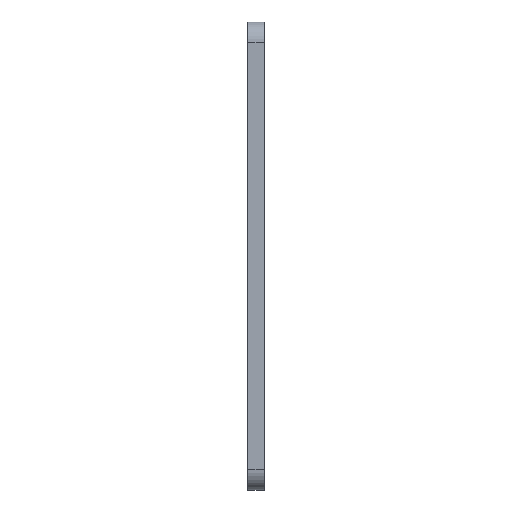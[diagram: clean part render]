
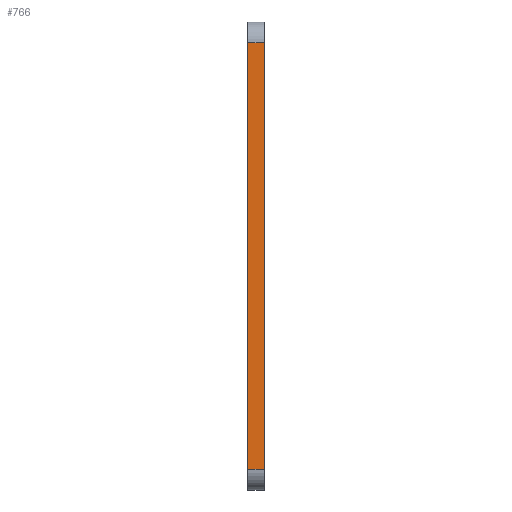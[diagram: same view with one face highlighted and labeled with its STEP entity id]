
A CAD part, left-side view. The second image highlights one B-rep face of the part: STEP entity #766.
In plain terms, the highlighted planar face has unit normal (-1, 0, 0).
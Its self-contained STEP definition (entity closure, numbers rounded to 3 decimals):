
#7 = VECTOR ( 'NONE', #39, 1000. ) ;
#16 = VERTEX_POINT ( 'NONE', #292 ) ;
#24 = PLANE ( 'NONE',  #202 ) ;
#34 = CARTESIAN_POINT ( 'NONE',  ( -8.5, 0., 46. ) ) ;
#39 = DIRECTION ( 'NONE',  ( 0., 0., 1. ) ) ;
#75 = VECTOR ( 'NONE', #364, 1000. ) ;
#77 = ORIENTED_EDGE ( 'NONE', *, *, #314, .T. ) ;
#96 = ORIENTED_EDGE ( 'NONE', *, *, #308, .T. ) ;
#127 = VECTOR ( 'NONE', #771, 1000. ) ;
#144 = CARTESIAN_POINT ( 'NONE',  ( -8.5, 0., 46. ) ) ;
#155 = VERTEX_POINT ( 'NONE', #680 ) ;
#158 = FACE_OUTER_BOUND ( 'NONE', #645, .T. ) ;
#202 = AXIS2_PLACEMENT_3D ( 'NONE', #491, #287, #781 ) ;
#239 = ORIENTED_EDGE ( 'NONE', *, *, #333, .T. ) ;
#280 = CARTESIAN_POINT ( 'NONE',  ( -8.5, 2., -8.5 ) ) ;
#287 = DIRECTION ( 'NONE',  ( -1., 0., 0. ) ) ;
#292 = CARTESIAN_POINT ( 'NONE',  ( -8.5, 2., 46. ) ) ;
#308 = EDGE_CURVE ( 'NONE', #682, #16, #392, .T. ) ;
#314 = EDGE_CURVE ( 'NONE', #155, #700, #800, .T. ) ;
#333 = EDGE_CURVE ( 'NONE', #700, #682, #870, .T. ) ;
#364 = DIRECTION ( 'NONE',  ( 0., 1., 0. ) ) ;
#392 = LINE ( 'NONE', #34, #75 ) ;
#438 = DIRECTION ( 'NONE',  ( 0., -1., 0. ) ) ;
#491 = CARTESIAN_POINT ( 'NONE',  ( -8.5, 0., -8.5 ) ) ;
#505 = LINE ( 'NONE', #280, #127 ) ;
#551 = CARTESIAN_POINT ( 'NONE',  ( -8.5, 0., -6. ) ) ;
#645 = EDGE_LOOP ( 'NONE', ( #239, #96, #664, #77 ) ) ;
#664 = ORIENTED_EDGE ( 'NONE', *, *, #678, .F. ) ;
#667 = CARTESIAN_POINT ( 'NONE',  ( -8.5, 0., -6. ) ) ;
#678 = EDGE_CURVE ( 'NONE', #155, #16, #505, .T. ) ;
#680 = CARTESIAN_POINT ( 'NONE',  ( -8.5, 2., -6. ) ) ;
#682 = VERTEX_POINT ( 'NONE', #144 ) ;
#700 = VERTEX_POINT ( 'NONE', #551 ) ;
#766 = ADVANCED_FACE ( 'NONE', ( #158 ), #24, .T. ) ;
#771 = DIRECTION ( 'NONE',  ( 0., 0., 1. ) ) ;
#781 = DIRECTION ( 'NONE',  ( 0., 0., 1. ) ) ;
#800 = LINE ( 'NONE', #667, #810 ) ;
#810 = VECTOR ( 'NONE', #438, 1000. ) ;
#859 = CARTESIAN_POINT ( 'NONE',  ( -8.5, 0., -8.5 ) ) ;
#870 = LINE ( 'NONE', #859, #7 ) ;
